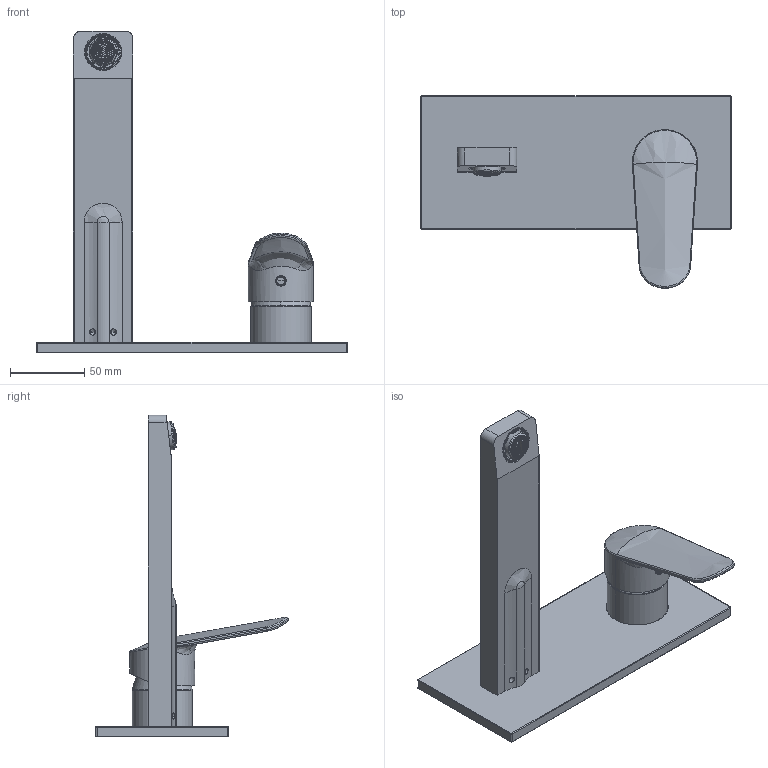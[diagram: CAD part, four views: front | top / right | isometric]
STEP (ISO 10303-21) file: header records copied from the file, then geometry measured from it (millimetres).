
FILE_DESCRIPTION((''),'2;1');
FILE_NAME('F3021LX5CR_FILE_3D','2016-05-31T',('ivanv'),(''),'CREO PARAMETRIC BY PTC INC, 2015290','CREO PARAMETRIC BY PTC INC, 2015290','');
FILE_SCHEMA(('CONFIG_CONTROL_DESIGN'));
Products named in the file (1): F3021LX5CR_FILE_3D
Bounding box: 210 x 130.07 x 217 mm (x, y, z)
Volume: 207532.2 mm3; surface area: 106077 mm2
Topology: 3 solids, 3 shells, 6553 faces, 18911 edges, 12499 vertices
Faces by surface type: plane 4927, torus 658, cylinder 386, bspline 344, cone 152, extrusion 49, sphere 37
Entity records: 260846 total; most frequent: CARTESIAN_POINT 102986, ORIENTED_EDGE 37796, DIRECTION 25015, EDGE_CURVE 18898, VERTEX_POINT 12499, B_SPLINE_CURVE_WITH_KNOTS 8714, AXIS2_PLACEMENT_3D 8573, VECTOR 7869
